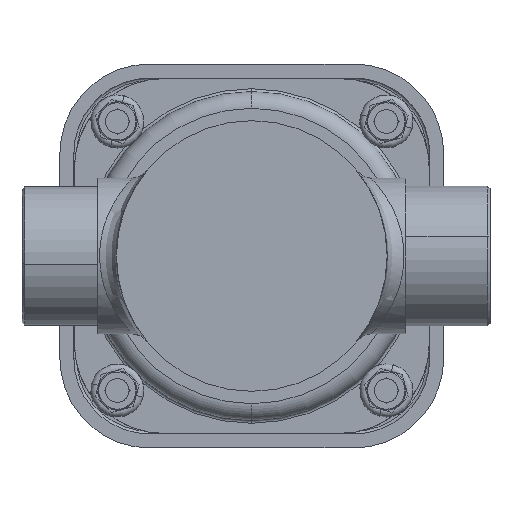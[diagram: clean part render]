
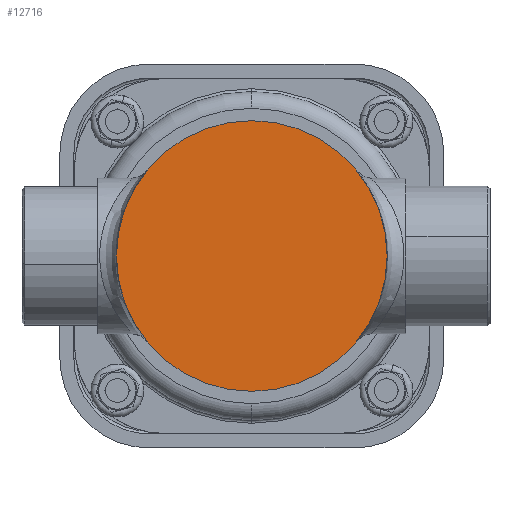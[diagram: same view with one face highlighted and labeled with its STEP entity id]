
A CAD part, front view. The second image highlights one B-rep face of the part: STEP entity #12716.
In plain terms, the highlighted planar face has unit normal (0, -1, 0).
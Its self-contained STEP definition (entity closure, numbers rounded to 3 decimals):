
#134 = EDGE_CURVE ( 'NONE', #11678, #5455, #2257, .T. ) ;
#327 = DIRECTION ( 'NONE',  ( 0., 1., 0. ) ) ;
#2257 = CIRCLE ( 'NONE', #11523, 24.15 ) ;
#3619 = CARTESIAN_POINT ( 'NONE',  ( 0., 0., 0. ) ) ;
#4419 = CARTESIAN_POINT ( 'NONE',  ( 0., 0., 0. ) ) ;
#4471 = DIRECTION ( 'NONE',  ( 0., 0., 1. ) ) ;
#4513 = DIRECTION ( 'NONE',  ( 0., 1., 0. ) ) ;
#5032 = EDGE_LOOP ( 'NONE', ( #12616, #8650 ) ) ;
#5247 = CARTESIAN_POINT ( 'NONE',  ( 0., 0., -24.15 ) ) ;
#5455 = VERTEX_POINT ( 'NONE', #5247 ) ;
#5858 = EDGE_CURVE ( 'NONE', #5455, #11678, #8619, .T. ) ;
#6783 = DIRECTION ( 'NONE',  ( 0., 1., 0. ) ) ;
#6837 = DIRECTION ( 'NONE',  ( 0., 0., 1. ) ) ;
#8619 = CIRCLE ( 'NONE', #9350, 24.15 ) ;
#8650 = ORIENTED_EDGE ( 'NONE', *, *, #134, .F. ) ;
#8858 = DIRECTION ( 'NONE',  ( 0., 0., 1. ) ) ;
#9350 = AXIS2_PLACEMENT_3D ( 'NONE', #11085, #6783, #6837 ) ;
#9781 = CARTESIAN_POINT ( 'NONE',  ( 0., 0., 24.15 ) ) ;
#11054 = FACE_OUTER_BOUND ( 'NONE', #5032, .T. ) ;
#11085 = CARTESIAN_POINT ( 'NONE',  ( 0., 0., 0. ) ) ;
#11523 = AXIS2_PLACEMENT_3D ( 'NONE', #4419, #4513, #4471 ) ;
#11678 = VERTEX_POINT ( 'NONE', #9781 ) ;
#12616 = ORIENTED_EDGE ( 'NONE', *, *, #5858, .F. ) ;
#12716 = ADVANCED_FACE ( 'NONE', ( #11054 ), #13154, .F. ) ;
#12840 = AXIS2_PLACEMENT_3D ( 'NONE', #3619, #327, #8858 ) ;
#13154 = PLANE ( 'NONE',  #12840 ) ;
